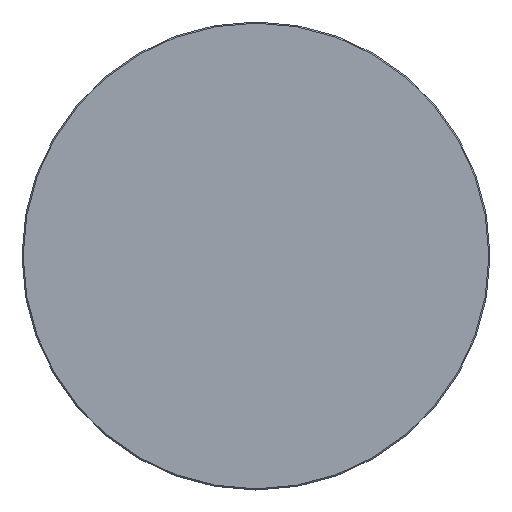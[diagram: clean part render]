
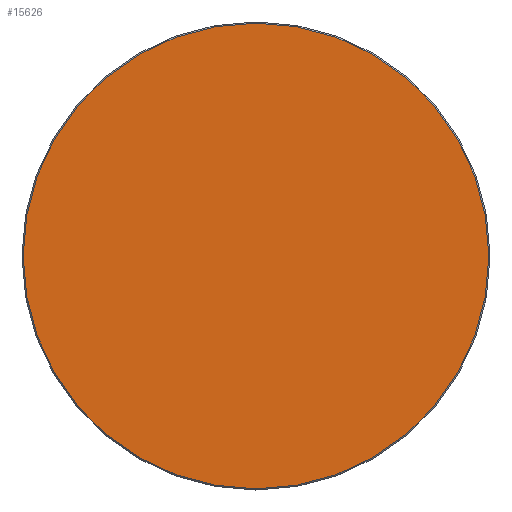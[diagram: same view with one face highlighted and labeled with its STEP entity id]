
A CAD part, top view. The second image highlights one B-rep face of the part: STEP entity #15626.
In plain terms, the highlighted planar face has unit normal (0, 0, 1).
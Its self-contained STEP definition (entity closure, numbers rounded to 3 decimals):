
#15551=CARTESIAN_POINT('',(0.,0.,20.));
#15552=DIRECTION('',(1.,0.,0.));
#15553=DIRECTION('',(0.,0.,1.));
#15554=AXIS2_PLACEMENT_3D('',#15551,#15553,#15552);
#15555=PLANE('',#15554);
#15556=CARTESIAN_POINT('',(-0.5,-298.5,20.));
#15557=VERTEX_POINT('',#15556);
#15558=CARTESIAN_POINT('',(0.5,-298.5,20.));
#15559=VERTEX_POINT('',#15558);
#15560=CARTESIAN_POINT('',(-0.5,-298.5,20.));
#15561=DIRECTION('',(1.,0.,0.));
#15562=VECTOR('',#15561,1.);
#15563=LINE('',#15560,#15562);
#15564=EDGE_CURVE('',#15557,#15559,#15563,.T.);
#15565=ORIENTED_EDGE('E105',*,*,#15564,.T.);
#15566=CARTESIAN_POINT('',(298.5,-0.5,20.));
#15567=VERTEX_POINT('',#15566);
#15568=CARTESIAN_POINT('',(0.5,-0.5,20.));
#15569=DIRECTION('',(0.,-1.,0.));
#15570=DIRECTION('',(0.,-0.,1.));
#15571=AXIS2_PLACEMENT_3D('',#15568,#15570,#15569);
#15572=CIRCLE('',#15571,298.);
#15573=EDGE_CURVE('',#15559,#15567,#15572,.T.);
#15574=ORIENTED_EDGE('E107',*,*,#15573,.T.);
#15575=CARTESIAN_POINT('',(298.5,0.5,20.));
#15576=VERTEX_POINT('',#15575);
#15577=CARTESIAN_POINT('',(298.5,-0.5,20.));
#15578=DIRECTION('',(0.,1.,0.));
#15579=VECTOR('',#15578,1.);
#15580=LINE('',#15577,#15579);
#15581=EDGE_CURVE('',#15567,#15576,#15580,.T.);
#15582=ORIENTED_EDGE('E109',*,*,#15581,.T.);
#15583=CARTESIAN_POINT('',(0.5,298.5,20.));
#15584=VERTEX_POINT('',#15583);
#15585=CARTESIAN_POINT('',(0.5,0.5,20.));
#15586=DIRECTION('',(1.,0.,0.));
#15587=DIRECTION('',(0.,0.,1.));
#15588=AXIS2_PLACEMENT_3D('',#15585,#15587,#15586);
#15589=CIRCLE('',#15588,298.);
#15590=EDGE_CURVE('',#15576,#15584,#15589,.T.);
#15591=ORIENTED_EDGE('E111',*,*,#15590,.T.);
#15592=CARTESIAN_POINT('',(-0.5,298.5,20.));
#15593=VERTEX_POINT('',#15592);
#15594=CARTESIAN_POINT('',(0.5,298.5,20.));
#15595=DIRECTION('',(-1.,0.,0.));
#15596=VECTOR('',#15595,1.);
#15597=LINE('',#15594,#15596);
#15598=EDGE_CURVE('',#15584,#15593,#15597,.T.);
#15599=ORIENTED_EDGE('E113',*,*,#15598,.T.);
#15600=CARTESIAN_POINT('',(-298.5,0.5,20.));
#15601=VERTEX_POINT('',#15600);
#15602=CARTESIAN_POINT('',(-0.5,0.5,20.));
#15603=DIRECTION('',(0.,1.,0.));
#15604=DIRECTION('',(0.,0.,1.));
#15605=AXIS2_PLACEMENT_3D('',#15602,#15604,#15603);
#15606=CIRCLE('',#15605,298.);
#15607=EDGE_CURVE('',#15593,#15601,#15606,.T.);
#15608=ORIENTED_EDGE('E115',*,*,#15607,.T.);
#15609=CARTESIAN_POINT('',(-298.5,-0.5,20.));
#15610=VERTEX_POINT('',#15609);
#15611=CARTESIAN_POINT('',(-298.5,0.5,20.));
#15612=DIRECTION('',(0.,-1.,0.));
#15613=VECTOR('',#15612,1.);
#15614=LINE('',#15611,#15613);
#15615=EDGE_CURVE('',#15601,#15610,#15614,.T.);
#15616=ORIENTED_EDGE('E117',*,*,#15615,.T.);
#15617=CARTESIAN_POINT('',(-0.5,-0.5,20.));
#15618=DIRECTION('',(-1.,0.,0.));
#15619=DIRECTION('',(0.,0.,1.));
#15620=AXIS2_PLACEMENT_3D('',#15617,#15619,#15618);
#15621=CIRCLE('',#15620,298.);
#15622=EDGE_CURVE('',#15610,#15557,#15621,.T.);
#15623=ORIENTED_EDGE('E119',*,*,#15622,.T.);
#15624=EDGE_LOOP('',(#15565,#15574,#15582,#15591,#15599,#15608,#15616,#15623));
#15625=FACE_OUTER_BOUND('',#15624,.T.);
#15626=ADVANCED_FACE('F2',(#15625),#15555,.T.);
